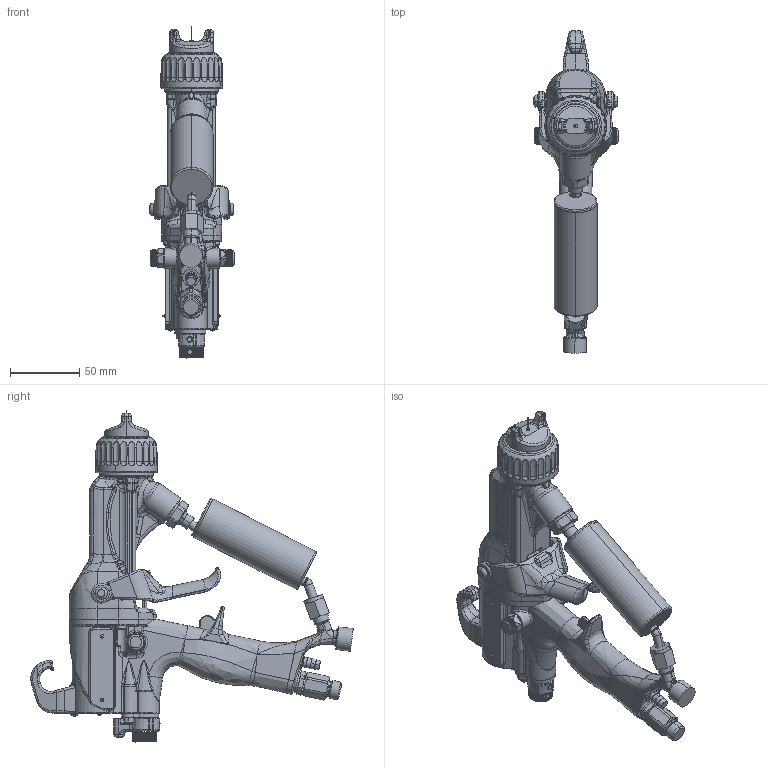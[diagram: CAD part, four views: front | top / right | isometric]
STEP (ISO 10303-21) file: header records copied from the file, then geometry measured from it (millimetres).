
FILE_DESCRIPTION((''),'2;1');
FILE_NAME('L60T13-EN-E_PRT','2020-05-18T18:13:54',('qusrh3'),(''),'CREO PARAMETRIC BY PTC INC, 2019030','CREO PARAMETRIC BY PTC INC, 2019030','');
FILE_SCHEMA(('CONFIG_CONTROL_DESIGN'));
Length unit declared in the file: inch
Products named in the file (1): L60T13-EN-E_PRT
Bounding box: 61.27 x 233.22 x 240.18 mm (x, y, z)
Surface area: 97221.4 mm2 (no closed solid volume)
Topology: 0 solids, 66 shells, 2689 faces, 7404 edges, 4634 vertices
Faces by surface type: bspline 873, cylinder 677, plane 582, torus 260, cone 237, sphere 56, extrusion 4
Entity records: 129899 total; most frequent: CARTESIAN_POINT 70851, ORIENTED_EDGE 13468, DIRECTION 10126, EDGE_CURVE 7395, VERTEX_POINT 4634, AXIS2_PLACEMENT_3D 4100, B_SPLINE_CURVE_WITH_KNOTS 3189, EDGE_LOOP 2689
